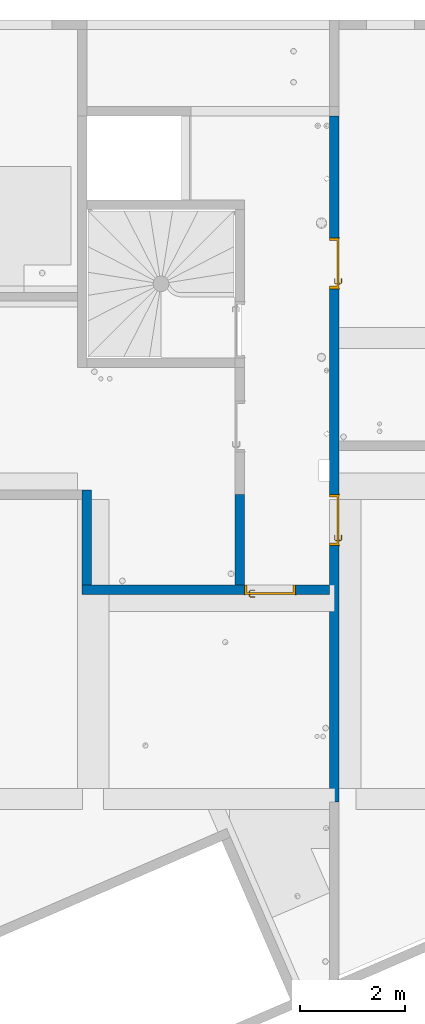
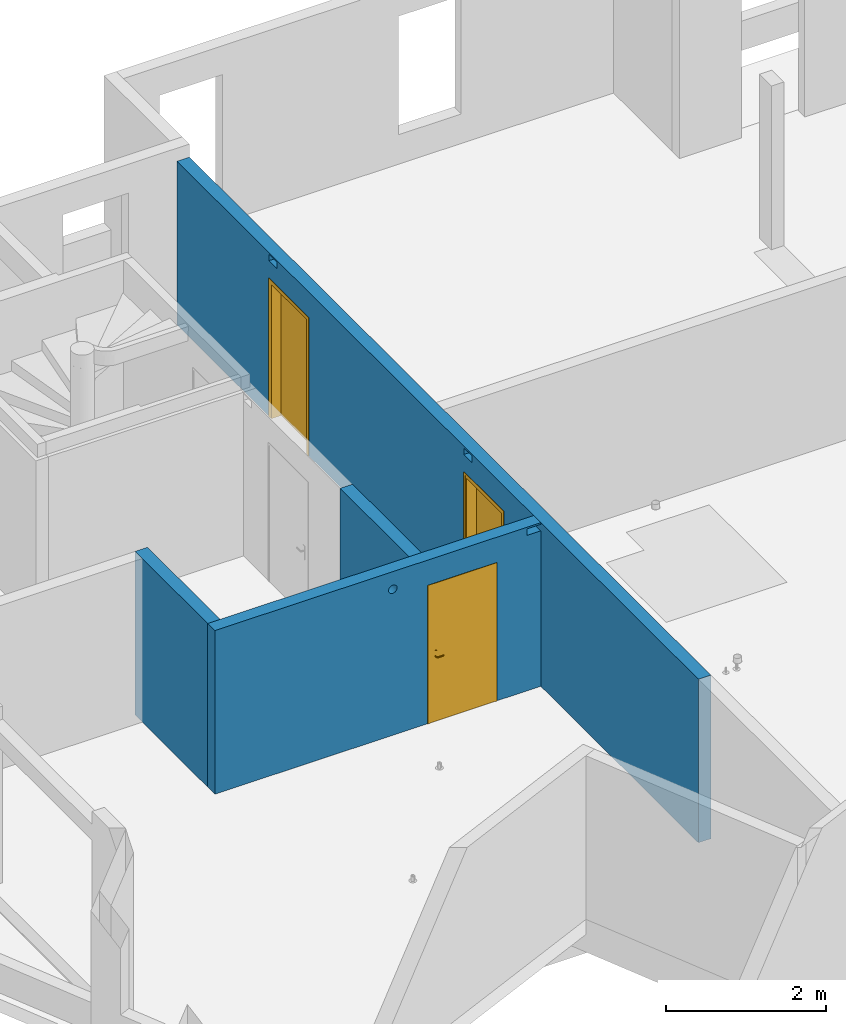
# One storey, part 5 of 34: 4 walls, 3 doors, 7 openings.
"""IFC2X3 building model written with IfcOpenShell, lengths in centimetres."""

import ifcopenshell
import ifcopenshell.guid

model = None  # the IFC model being written
_history = None  # IfcOwnerHistory: only IFC2X3 demands one
_inside = {}  # id of a spatial element -> (the spatial element, [elements in it])
_under = {}  # id of a project, library or spatial element -> (it, [spatial elements below it])
_declared = {}  # id of a project -> (the project, [libraries it declares])
_typed = {}  # id of a type object -> (the type object, [elements of that type])
_made_of = {}  # id of a material, layer set ... -> (it, [elements and type objects made of it])


def new_model(schema):
    """Start an empty IFC model of exactly this schema.

    Asked for "IFC4X3", IfcOpenShell would pick the latest addendum, in which some entities
    have other attributes; the version numbers below select the first issue.
    IFC2X3 requires an IfcOwnerHistory on every rooted entity: one is made here for all.
    """
    global model, _history
    if schema == "IFC4X3":
        model = ifcopenshell.file(schema_version=(4, 3, 0, 0))
    else:
        model = ifcopenshell.file(schema=schema)
    _inside.clear()
    _under.clear()
    _declared.clear()
    _typed.clear()
    _made_of.clear()
    _history = None
    if model.schema == "IFC2X3":
        org = make("IfcOrganization", Name="unknown")
        user = make(
            "IfcPersonAndOrganization",
            ThePerson=make("IfcPerson", FamilyName="unknown"),
            TheOrganization=org,
        )
        app = make(
            "IfcApplication",
            ApplicationDeveloper=org,
            Version="unknown",
            ApplicationFullName="unknown",
            ApplicationIdentifier="unknown",
        )
        _history = make(
            "IfcOwnerHistory",
            OwningUser=user,
            OwningApplication=app,
            ChangeAction="ADDED",
            CreationDate=0,
        )
    return model


def make(cls, **values):
    """One entity of the class cls with the attributes given. An attribute that is None is left unset."""
    return model.create_entity(
        cls, **{name: value for name, value in values.items() if value is not None}
    )


def entity(cls, *values):
    """Any entity or typed value of the class cls, its attributes in the order of the schema. None: left unset."""
    e = model.create_entity(cls)
    for i, value in enumerate(values):
        if value is not None:
            e[i] = value
    return e


def rooted(cls, **values):
    """An entity with a GlobalId (a new one), such as an element, a storey or a relation."""
    return make(cls, GlobalId=ifcopenshell.guid.new(), OwnerHistory=_history, **values)


def si_unit(unit_type, name, prefix=None):
    """IfcSIUnit, for example si_unit("LENGTHUNIT", "METRE", prefix="MILLI")."""
    return make("IfcSIUnit", UnitType=unit_type, Prefix=prefix, Name=name)


def converted_unit(unit_type, name, factor, base, dimensions=None, offset=None):
    """IfcConversionBasedUnit, such as the inch: factor (a typed value) times the base unit."""
    return make(
        "IfcConversionBasedUnit"
        if offset is None
        else "IfcConversionBasedUnitWithOffset",
        ConversionOffset=offset,
        Dimensions=None
        if dimensions is None
        else entity("IfcDimensionalExponents", *dimensions),
        UnitType=unit_type,
        Name=name,
        ConversionFactor=make(
            "IfcMeasureWithUnit", ValueComponent=factor, UnitComponent=base
        ),
    )


def derived_unit(unit_type, elements):
    """IfcDerivedUnit: a product of units, each with its exponent."""
    return make(
        "IfcDerivedUnit",
        Elements=[
            make("IfcDerivedUnitElement", Unit=unit, Exponent=power)
            for unit, power in elements
        ],
        UnitType=unit_type,
    )


def assignment(units):
    """IfcUnitAssignment: the units of a project."""
    return None if units is None else make("IfcUnitAssignment", Units=units)


def point(xyz):
    """IfcCartesianPoint."""
    return None if xyz is None else make("IfcCartesianPoint", Coordinates=xyz)


def direction(xyz):
    """IfcDirection."""
    return None if xyz is None else make("IfcDirection", DirectionRatios=xyz)


def frame(location, z_axis=None, x_axis=None):
    """IfcAxis2Placement3D, a coordinate frame: its origin and axes. An axis left out is left unset."""
    return make(
        "IfcAxis2Placement3D",
        Location=point(location),
        Axis=direction(z_axis),
        RefDirection=direction(x_axis),
    )


def frame_2d(location, x_axis=None):
    """IfcAxis2Placement2D, a coordinate frame in the plane: its origin and x axis."""
    return make(
        "IfcAxis2Placement2D", Location=point(location), RefDirection=direction(x_axis)
    )


def origin():
    """The frame at (0, 0, 0) with its axes left unset."""
    return frame((0.0, 0.0, 0.0))


def origin_2d_with_axis():
    """The frame at (0, 0) in the plane with the x axis (1, 0) written out."""
    return frame_2d((0.0, 0.0), x_axis=(1.0, 0.0))


def place(relative_to, where):
    """IfcLocalPlacement: puts the frame where relative to a parent placement (None: the world)."""
    return make(
        "IfcLocalPlacement", PlacementRelTo=relative_to, RelativePlacement=where
    )


def context(
    kind, dimensions, precision=None, world=None, true_north=None, identifier=None
):
    """IfcGeometricRepresentationContext, for example the 3D "Model" context."""
    return make(
        "IfcGeometricRepresentationContext",
        ContextIdentifier=identifier,
        ContextType=kind,
        CoordinateSpaceDimension=dimensions,
        Precision=precision,
        WorldCoordinateSystem=world,
        TrueNorth=true_north,
    )


def subcontext(parent, identifier, kind, view, scale=None):
    """IfcGeometricRepresentationSubContext, for example "Body" below "Model"."""
    return make(
        "IfcGeometricRepresentationSubContext",
        ContextIdentifier=identifier,
        ContextType=kind,
        ParentContext=parent,
        TargetScale=scale,
        TargetView=view,
    )


def project(units=None, contexts=None):
    """IfcProject with its units and contexts."""
    return rooted(
        "IfcProject",
        Name="project",
        RepresentationContexts=contexts,
        UnitsInContext=assignment(units),
    )


def spatial(cls, under=None, at=None, **own):
    """A site, building, storey or space (cls), placed at a placement, below another one or the project."""
    s = rooted(cls, ObjectPlacement=at, **own)
    if under is not None:
        _under.setdefault(under.id(), (under, []))[1].append(s)
    return s


def profile(cls, at=None, kind="AREA", **sizes):
    """A parametric profile (cls). Its sizes go by their IFC names, for example OverallWidth=200.0."""
    return make(cls, ProfileType=kind, Position=at, **sizes)


def rectangle(**sizes):
    """IfcRectangleProfileDef."""
    return profile("IfcRectangleProfileDef", **sizes)


def circle(**sizes):
    """IfcCircleProfileDef."""
    return profile("IfcCircleProfileDef", **sizes)


def extrude(swept, where, along, depth):
    """IfcExtrudedAreaSolid: the profile swept, set in the frame where, extruded along a direction by depth."""
    return make(
        "IfcExtrudedAreaSolid",
        SweptArea=swept,
        Position=where,
        ExtrudedDirection=direction(along),
        Depth=depth,
    )


def faces_of(points, faces, orient=None, outer=None):
    """IfcFace entities. A face is a list of loops; a loop is a list of indices into points, from 0.

    orient and outer hold one flag for each loop. By default every Orientation is true, the
    first loop of a face is its IfcFaceOuterBound and the others are IfcFaceBound.
    """
    made = []
    for i, loops in enumerate(faces):
        bounds = []
        for j, loop in enumerate(loops):
            is_outer = j == 0 if outer is None else outer[i][j]
            bounds.append(
                make(
                    "IfcFaceOuterBound" if is_outer else "IfcFaceBound",
                    Bound=make("IfcPolyLoop", Polygon=[points[k] for k in loop]),
                    Orientation=True if orient is None else orient[i][j],
                )
            )
        made.append(make("IfcFace", Bounds=bounds))
    return made


def faceted_brep(points, faces, orient=None, outer=None, voids=None):
    """IfcFacetedBrep: a solid bounded by flat faces; with voids (closed shells), ...WithVoids."""
    shared = [point(p) for p in points]
    hull = make("IfcClosedShell", CfsFaces=faces_of(shared, faces, orient, outer))
    if voids is None:
        return make("IfcFacetedBrep", Outer=hull)
    return make(
        "IfcFacetedBrepWithVoids",
        Outer=hull,
        Voids=[
            make(cls, CfsFaces=faces_of(shared, fs, o, b)) for cls, fs, o, b in voids
        ],
    )


def shape(context_of_items, identifier, shape_type, items):
    """IfcShapeRepresentation: the items that make up one representation, for example the "Body"."""
    return make(
        "IfcShapeRepresentation",
        ContextOfItems=context_of_items,
        RepresentationIdentifier=identifier,
        RepresentationType=shape_type,
        Items=items,
    )


def source(mapping_origin, context_of_items, identifier, shape_type, items):
    """IfcRepresentationMap: a shape defined once, which mapped items show again and again."""
    return make(
        "IfcRepresentationMap",
        MappingOrigin=mapping_origin,
        MappedRepresentation=shape(context_of_items, identifier, shape_type, items),
    )


def transform(
    local_origin,
    x_axis=None,
    y_axis=None,
    z_axis=None,
    scale=None,
    scale2=None,
    scale3=None,
    uniform=True,
):
    """IfcCartesianTransformationOperator3D, or its non-uniform kind. x_axis, y_axis, z_axis: its Axis1, 2, 3."""
    if uniform:
        return make(
            "IfcCartesianTransformationOperator3D",
            Axis1=direction(x_axis),
            Axis2=direction(y_axis),
            LocalOrigin=point(local_origin),
            Scale=scale,
            Axis3=direction(z_axis),
        )
    return make(
        "IfcCartesianTransformationOperator3DnonUniform",
        Axis1=direction(x_axis),
        Axis2=direction(y_axis),
        LocalOrigin=point(local_origin),
        Scale=scale,
        Axis3=direction(z_axis),
        Scale2=scale2,
        Scale3=scale3,
    )


def mapped(mapping_source, mapping_target):
    """IfcMappedItem: shows the shape of a source again, moved by a transform."""
    return make(
        "IfcMappedItem", MappingSource=mapping_source, MappingTarget=mapping_target
    )


def material(Name=None, Category=None):
    """IfcMaterial."""
    return make("IfcMaterial", Name=Name, Category=Category)


def material_list(materials):
    """IfcMaterialList."""
    return make("IfcMaterialList", Materials=materials)


def layer(
    of_material, thickness, ventilated=None, Name=None, Category=None, Priority=None
):
    """IfcMaterialLayer: one layer of a wall or slab, of a material (None: an air gap)."""
    return make(
        "IfcMaterialLayer",
        Material=of_material,
        LayerThickness=thickness,
        IsVentilated=ventilated,
        Name=Name,
        Category=Category,
        Priority=Priority,
    )


def layer_set(layers, Name=None):
    """IfcMaterialLayerSet."""
    return make("IfcMaterialLayerSet", MaterialLayers=layers, LayerSetName=Name)


def layer_usage(for_layer_set, set_direction, sense, offset, extent=None):
    """IfcMaterialLayerSetUsage: how a layer set lies in its element."""
    return make(
        "IfcMaterialLayerSetUsage",
        ForLayerSet=for_layer_set,
        LayerSetDirection=set_direction,
        DirectionSense=sense,
        OffsetFromReferenceLine=offset,
        ReferenceExtent=extent,
    )


def made_of(thing, what):
    """Note that an element or type object is made of a material, layer set ...; save() writes the relation."""
    if what is not None:
        _made_of.setdefault(what.id(), (what, []))[1].append(thing)
    return thing


def type_object(cls, material=None, **own):
    """A type object (cls), such as IfcWallType, which elements share."""
    return made_of(rooted(cls, **own), material)


def type_shapes(of_type, sources):
    """Give a type object the sources (RepresentationMaps) that its elements show as mapped items."""
    of_type.RepresentationMaps = sources


def element(
    cls,
    number,
    at=None,
    inside=None,
    cuts=None,
    type_object=None,
    material=None,
    context=None,
    identifier="Body",
    shape_type=None,
    held_by="IfcProductDefinitionShape",
    body=None,
    shapes=None,
    **own,
):
    """One element of the class cls, such as IfcWall. Its Tag is "e" and its number.

    at: its placement. inside: the storey or other place that contains it. cuts: it is an
    opening in that element (IfcRelVoidsElement). A single representation is given by context,
    identifier, shape_type and body (its items); several are given by shapes. held_by: the class
    of the entity that holds the representations. save() writes the other relations.
    """
    e = rooted(cls, Tag="e%d" % number, ObjectPlacement=at, **own)
    if body is not None:
        shapes = [shape(context, identifier, shape_type, body)]
    if shapes is not None:
        e.Representation = make(held_by, Representations=shapes)
    if inside is not None:
        _inside.setdefault(inside.id(), (inside, []))[1].append(e)
    if cuts is not None:
        rooted(
            "IfcRelVoidsElement", RelatingBuildingElement=cuts, RelatedOpeningElement=e
        )
    if type_object is not None:
        _typed.setdefault(type_object.id(), (type_object, []))[1].append(e)
    return made_of(e, material)


def fill(opening, filler):
    """IfcRelFillsElement: the door or window that sits in an opening."""
    return rooted(
        "IfcRelFillsElement",
        RelatingOpeningElement=opening,
        RelatedBuildingElement=filler,
    )


def aggregate(whole, parts):
    """IfcRelAggregates: a whole, such as a stair, and the parts it consists of."""
    return rooted("IfcRelAggregates", RelatingObject=whole, RelatedObjects=parts)


def save(model, path):
    """Write the relations noted so far, then the file.

    IfcRelAggregates (storeys below a building ...), IfcRelContainedInSpatialStructure (elements
    in a storey), IfcRelDefinesByType, IfcRelAssociatesMaterial and IfcRelDeclares: one each for
    every whole, place, type object, material and project.
    """
    for whole, parts in _under.values():
        aggregate(whole, parts)
    for where, things in _inside.values():
        rooted(
            "IfcRelContainedInSpatialStructure",
            RelatedElements=things,
            RelatingStructure=where,
        )
    for kind, things in _typed.values():
        rooted("IfcRelDefinesByType", RelatedObjects=things, RelatingType=kind)
    for what, things in _made_of.values():
        rooted("IfcRelAssociatesMaterial", RelatedObjects=things, RelatingMaterial=what)
    for by, libraries in _declared.values():
        rooted("IfcRelDeclares", RelatingContext=by, RelatedDefinitions=libraries)
    model.write(path)


model = new_model("IFC2X3")

# Units and contexts
model_context = context("Model", 3, precision=0.001, world=origin(), true_north=direction((6.12303176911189e-17, 1.0)))
body_context = subcontext(model_context, "Body", "Model", "MODEL_VIEW")
ifc_project = project(units=[si_unit("LENGTHUNIT", "METRE", prefix="CENTI"), si_unit("AREAUNIT", "SQUARE_METRE"), si_unit("VOLUMEUNIT", "CUBIC_METRE"), converted_unit("PLANEANGLEUNIT", "DEGREE", entity("IfcRatioMeasure", 0.0174532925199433), si_unit("PLANEANGLEUNIT", "RADIAN"), dimensions=[0, 0, 0, 0, 0, 0, 0]), si_unit("MASSUNIT", "GRAM", prefix="KILO"), derived_unit("MASSDENSITYUNIT", [(si_unit("MASSUNIT", "GRAM", prefix="KILO"), 1), (si_unit("LENGTHUNIT", "METRE"), -3)]), si_unit("TIMEUNIT", "SECOND"), si_unit("FREQUENCYUNIT", "HERTZ"), si_unit("THERMODYNAMICTEMPERATUREUNIT", "DEGREE_CELSIUS"), derived_unit("THERMALTRANSMITTANCEUNIT", [(si_unit("MASSUNIT", "GRAM", prefix="KILO"), 1), (si_unit("THERMODYNAMICTEMPERATUREUNIT", "KELVIN"), -1), (si_unit("TIMEUNIT", "SECOND"), -3)]), derived_unit("VOLUMETRICFLOWRATEUNIT", [(si_unit("LENGTHUNIT", "METRE"), 3), (si_unit("TIMEUNIT", "SECOND"), -1)]), si_unit("ELECTRICCURRENTUNIT", "AMPERE"), si_unit("ELECTRICVOLTAGEUNIT", "VOLT"), si_unit("POWERUNIT", "WATT"), si_unit("FORCEUNIT", "NEWTON"), si_unit("ILLUMINANCEUNIT", "LUX"), si_unit("LUMINOUSFLUXUNIT", "LUMEN"), si_unit("LUMINOUSINTENSITYUNIT", "CANDELA"), derived_unit("USERDEFINED", [(si_unit("MASSUNIT", "GRAM", prefix="KILO"), -1), (si_unit("LENGTHUNIT", "METRE"), -2), (si_unit("TIMEUNIT", "SECOND"), 3), (si_unit("LUMINOUSFLUXUNIT", "LUMEN"), 1)]), derived_unit("LINEARVELOCITYUNIT", [(si_unit("LENGTHUNIT", "METRE"), 1), (si_unit("TIMEUNIT", "SECOND"), -1)]), si_unit("PRESSUREUNIT", "PASCAL"), derived_unit("USERDEFINED", [(si_unit("LENGTHUNIT", "METRE"), -2), (si_unit("MASSUNIT", "GRAM", prefix="KILO"), 1), (si_unit("TIMEUNIT", "SECOND"), -2)])], contexts=[model_context])

# Site, building, storey
site_placement = place(None, origin())
site = spatial("IfcSite", under=ifc_project, at=site_placement, Name="Default", CompositionType="ELEMENT")
building_placement = place(site_placement, origin())
building = spatial("IfcBuilding", under=site, at=building_placement, Name="CAGE 03", CompositionType="ELEMENT")
storey_placement = place(building_placement, frame((0.0, 0.0, 340.0)))
storey = spatial("IfcBuildingStorey", under=building, at=storey_placement, Name="R+1", CompositionType="ELEMENT", Elevation=340.0)

# Wall, openings, door
ifc_material_1 = material(Name="Béton, C25/30")
ifc_layer = layer(ifc_material_1, 18.0)
ifc_layer_set = layer_set([ifc_layer], Name="Mur de base:Voile BA 18")
ifc_layer_usage_1 = layer_usage(ifc_layer_set, "AXIS2", "NEGATIVE", 9.0)
wall_type = type_object("IfcWallType", Name="Mur de base:Voile BA 18", PredefinedType="STANDARD", material=ifc_layer_set)
wall_1_placement = place(storey_placement, frame((4134.36582014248, 4209.16066607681, 0.0), z_axis=(0.0, 0.0, 1.0), x_axis=(-1.0, 0.0, 0.0)))
wall_1 = element("IfcWallStandardCase", 1, at=wall_1_placement, inside=storey, type_object=wall_type, material=ifc_layer_usage_1, Name="Mur de base:Voile BA 18", ObjectType="Mur de base:Voile BA 18", context=body_context, shape_type="SweptSolid", body=[
    extrude(rectangle(XDim=470.999999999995, YDim=17.9999999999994, at=frame_2d((235.499999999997, 0.0), x_axis=(-1.0, 0.0))), origin(), (0.0, 0.0, 1.0), 250.0),
])
opening_1_placement = place(wall_1_placement, origin())
element("IfcOpeningElement", 2, at=opening_1_placement, cuts=wall_1, Name="Mur de base:Voile BA 18", ObjectType="Opening", context=body_context, shape_type="SweptSolid", body=[
    extrude(rectangle(XDim=10.0, YDim=19.9999999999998, at=frame_2d((4.33431068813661e-13, 5.41788836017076e-14), x_axis=(0.0, 1.0))), frame((10.0, -9.0, 242.5), z_axis=(0.0, 1.0, 0.0), x_axis=(1.0, 0.0, 0.0)), (0.0, 0.0, 1.0), 17.9999999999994),
])
opening_2_placement = place(wall_1_placement, origin())
element("IfcOpeningElement", 3, at=opening_2_placement, cuts=wall_1, Name="Mur de base:Voile BA 18", ObjectType="Opening", context=body_context, shape_type="SweptSolid", body=[
    extrude(circle(Radius=6.25, at=origin_2d_with_axis()), frame((213.79796018, -9.0, 223.19), z_axis=(0.0, 1.0, 0.0), x_axis=(1.0, 0.0, 0.0)), (0.0, 0.0, 1.0), 17.9999999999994),
])
opening_3_placement = place(wall_1_placement, frame((65.0, -9.0, 0.0)))
opening_3 = element("IfcOpeningElement", 4, at=opening_3_placement, cuts=wall_1, Name="Int. Simple:HB93:1", ObjectType="Opening", context=body_context, shape_type="SweptSolid", body=[
    extrude(rectangle(XDim=210.000000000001, YDim=96.9999999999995, at=frame_2d((105.000000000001, 48.4999999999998), x_axis=(1.0, 0.0))), frame((0.0, 0.0, 0.0), z_axis=(0.0, 1.0, 0.0), x_axis=(0.0, 0.0, 1.0)), (0.0, 0.0, 1.0), 18.0),
])
ifc_material_2 = material(Name="Finition Peinture - Blanc satiné")
ifc_material_3 = material(Name="Bois - Panneau de porte")
ifc_material_4 = material(Name="Bois - Cadre de porte")
ifc_material_list_1 = material_list([ifc_material_2, ifc_material_3, ifc_material_4])
ifc_material_list_2 = material_list([ifc_material_2, ifc_material_3, ifc_material_4])
door_style = type_object("IfcDoorStyle", Name="HB93", ConstructionType="NOTDEFINED", OperationType="SINGLE_SWING_LEFT", ParameterTakesPrecedence=False, Sizeable=False, material=ifc_material_list_2)
shared_shape = source(origin(), body_context, "Body", "Brep", [
    faceted_brep([(10.5352761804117, -0.500000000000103, 86.6003983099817), (11.5000000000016, -0.500000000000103, 87.0), (11.5000000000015, -0.500000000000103, 108.0), (10.5352761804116, -0.500000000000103, 108.399601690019), (9.50000000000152, -0.500000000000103, 108.535898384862), (8.46472381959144, -0.500000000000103, 108.399601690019), (7.50000000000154, -0.500000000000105, 108.0), (7.50000000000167, -0.500000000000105, 87.0), (8.46472381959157, -0.500000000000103, 86.6003983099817), (9.50000000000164, -0.500000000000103, 86.464101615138), (10.5352761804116, 0.0, 108.399601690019), (11.5000000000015, 0.0, 108.0), (11.5000000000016, 0.0, 87.0), (10.5352761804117, 0.0, 86.6003983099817), (9.50000000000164, 0.0, 86.464101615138), (8.46472381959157, 0.0, 86.6003983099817), (7.50000000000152, 0.0, 87.0), (7.50000000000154, 0.0, 108.0), (8.46472381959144, 0.0, 108.399601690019), (9.50000000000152, 0.0, 108.535898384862)], [[[0, 1, 2, 3, 4, 5, 6, 7, 8, 9]], [[10, 11, 12, 13, 14, 15, 16, 17, 18, 19]], [[16, 15, 8, 7]], [[8, 15, 14, 9]], [[14, 13, 0, 9]], [[13, 12, 1, 0]], [[2, 1, 12, 11]], [[11, 10, 3, 2]], [[3, 10, 19, 4]], [[19, 18, 5, 4]], [[18, 17, 6, 5]], [[7, 6, 17, 16]]]),
    faceted_brep([(10.5352761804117, 4.0, 86.6003983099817), (11.5000000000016, 4.0, 87.0), (11.5000000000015, 4.0, 108.0), (10.5352761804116, 4.0, 108.399601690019), (9.50000000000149, 4.0, 108.535898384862), (8.46472381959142, 4.0, 108.399601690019), (7.50000000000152, 4.0, 108.0), (7.50000000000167, 4.0, 87.0), (8.46472381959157, 4.0, 86.6003983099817), (9.50000000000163, 4.0, 86.464101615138), (10.5352761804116, 4.49999999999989, 108.399601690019), (11.5000000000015, 4.4999999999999, 108.0), (11.5000000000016, 4.4999999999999, 87.0), (10.5352761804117, 4.49999999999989, 86.6003983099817), (9.50000000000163, 4.49999999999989, 86.464101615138), (8.46472381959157, 4.49999999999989, 86.6003983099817), (7.50000000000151, 4.49999999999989, 87.0), (7.50000000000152, 4.49999999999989, 108.0), (8.46472381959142, 4.49999999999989, 108.399601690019), (9.50000000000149, 4.49999999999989, 108.535898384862)], [[[0, 1, 2, 3, 4, 5, 6, 7, 8, 9]], [[10, 11, 12, 13, 14, 15, 16, 17, 18, 19]], [[11, 10, 3, 2]], [[3, 10, 19, 4]], [[19, 18, 5, 4]], [[18, 17, 6, 5]], [[7, 6, 17, 16]], [[16, 15, 8, 7]], [[8, 15, 14, 9]], [[14, 13, 0, 9]], [[13, 12, 1, 0]], [[2, 1, 12, 11]]]),
    faceted_brep([(9.29747013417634, -0.500000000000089, 100.778044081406), (9.70252986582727, -0.500000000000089, 100.778044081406), (10.1000000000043, -0.500000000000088, 100.699999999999), (10.1000000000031, -0.500000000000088, 99.3000000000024), (9.70252986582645, -0.500000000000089, 99.2219559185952), (9.29747013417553, -0.500000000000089, 99.221955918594), (8.89999999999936, -0.500000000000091, 99.2999999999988), (8.89999999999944, -0.500000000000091, 100.7), (8.89999999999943, -3.26509507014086, 100.7), (9.29747013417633, -3.10045754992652, 100.778044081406), (10.9023585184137, -4.70534593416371, 100.778044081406), (11.0701397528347, -4.30028620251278, 100.778044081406), (9.70252986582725, -2.93267631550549, 100.778044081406), (10.1000000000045, -2.76803879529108, 100.7), (10.1000000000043, -2.76803879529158, 99.3000000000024), (9.70252986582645, -2.93267631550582, 99.2219559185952), (11.0701397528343, -4.30028620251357, 99.2219559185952), (10.9023585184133, -4.70534593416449, 99.221955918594), (9.29747013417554, -3.10045754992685, 99.221955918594), (8.89999999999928, -3.26509507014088, 99.2999999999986), (10.7377209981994, -5.1028160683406, 100.7), (11.2347772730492, -3.90281606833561, 100.7), (11.2347772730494, -3.90281606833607, 99.3000000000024), (10.7377209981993, -5.10281606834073, 99.2999999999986), (19.5018640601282, -5.1028160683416, 99.2999999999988), (19.5018640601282, -4.70534593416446, 99.221955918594), (19.5018640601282, -4.30028620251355, 99.2219559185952), (19.5018640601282, -3.90281606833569, 99.3000000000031), (19.5018640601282, -3.90281606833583, 100.7), (19.5018640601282, -4.30028620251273, 100.778044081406), (19.5018640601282, -4.70534593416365, 100.778044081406), (19.5018640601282, -5.10281606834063, 100.699999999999), (14.7307697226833, -5.10281606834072, 100.7), (15.28600190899, -4.5028160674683, 100.78786867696), (15.3683206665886, -3.9028160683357, 100.7), (15.3683206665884, -3.90281606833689, 99.3000000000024), (15.2860018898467, -4.50281607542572, 99.2121313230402), (14.7307700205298, -5.10281606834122, 99.2999999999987)], [[[0, 1, 2, 3, 4, 5, 6, 7]], [[8, 9, 0, 7]], [[9, 10, 11, 12, 1, 0]], [[12, 13, 2, 1]], [[3, 2, 13, 14]], [[14, 15, 4, 3]], [[15, 16, 17, 18, 5, 4]], [[18, 19, 6, 5]], [[7, 6, 19, 8]], [[20, 10, 9, 8]], [[11, 21, 13, 12]], [[14, 13, 21, 22]], [[22, 16, 15, 14]], [[17, 23, 19, 18]], [[8, 19, 23, 20]], [[24, 25, 26, 27, 28, 29, 30, 31]], [[32, 30, 33]], [[31, 30, 32]], [[10, 20, 32]], [[33, 34, 11]], [[21, 11, 34]], [[34, 29, 28]], [[30, 29, 33]], [[29, 34, 33]], [[10, 32, 33]], [[10, 33, 11]], [[22, 21, 34, 28, 27, 35]], [[35, 26, 36]], [[37, 36, 25]], [[22, 35, 16]], [[35, 27, 26]], [[24, 37, 25]], [[23, 17, 37]], [[37, 17, 36]], [[17, 16, 36]], [[16, 35, 36]], [[25, 36, 26]], [[20, 23, 37, 24, 31, 32]]]),
    faceted_brep([(9.29747013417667, 4.49999999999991, 100.778044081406), (8.89999999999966, 4.49999999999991, 100.7), (8.89999999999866, 4.49999999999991, 99.2999999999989), (9.2974701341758, 4.49999999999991, 99.221955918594), (9.70252986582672, 4.49999999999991, 99.2219559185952), (10.1000000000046, 4.49999999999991, 99.3000000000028), (10.1000000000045, 4.49999999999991, 100.7), (9.70252986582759, 4.49999999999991, 100.778044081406), (10.1000000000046, 6.7485204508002, 99.3000000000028), (10.1000000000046, 6.74852045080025, 100.7), (9.70252986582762, 6.91315797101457, 100.778044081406), (11.0838906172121, 8.29451872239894, 100.778044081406), (10.9161093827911, 8.69957845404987, 100.778044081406), (9.29747013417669, 7.0809392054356, 100.778044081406), (8.89999999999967, 7.24557672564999, 100.7), (8.89999999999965, 7.24557672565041, 99.2999999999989), (9.29747013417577, 7.08093920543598, 99.221955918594), (10.9161093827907, 8.69957845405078, 99.221955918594), (11.0838906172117, 8.29451872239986, 99.2219559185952), (9.7025298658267, 6.91315797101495, 99.2219559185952), (11.2485281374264, 7.89704858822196, 99.3000000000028), (11.2485281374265, 7.89704858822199, 100.7), (10.7514718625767, 9.0970485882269, 100.7), (10.751471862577, 9.0970485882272, 99.2999999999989), (19.504578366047, 7.89704858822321, 99.3000000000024), (19.504578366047, 8.29451872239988, 99.2219559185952), (19.504578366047, 8.6995784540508, 99.221955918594), (19.504578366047, 9.09704858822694, 99.2999999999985), (19.504578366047, 9.09704858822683, 100.7), (19.504578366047, 8.69957845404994, 100.778044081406), (19.504578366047, 8.29451872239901, 100.778044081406), (19.504578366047, 7.89704858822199, 100.7), (15.3765520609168, 7.89704858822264, 99.3000000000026), (15.3765532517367, 7.89704858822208, 100.7), (15.294234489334, 8.49704858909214, 100.78786867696), (14.7445205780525, 9.09704858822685, 100.7), (14.7445204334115, 9.09704858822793, 99.2999999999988), (15.2942345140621, 8.49704858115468, 99.2121313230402)], [[[0, 1, 2, 3, 4, 5, 6, 7]], [[6, 5, 8, 9]], [[9, 10, 7, 6]], [[10, 11, 12, 13, 0, 7]], [[13, 14, 1, 0]], [[2, 1, 14, 15]], [[15, 16, 3, 2]], [[16, 17, 18, 19, 4, 3]], [[19, 8, 5, 4]], [[9, 8, 20, 21]], [[21, 11, 10, 9]], [[12, 22, 14, 13]], [[15, 14, 22, 23]], [[23, 17, 16, 15]], [[18, 20, 8, 19]], [[24, 25, 26, 27, 28, 29, 30, 31]], [[21, 20, 32, 24, 31, 33]], [[33, 30, 34]], [[35, 34, 29]], [[21, 33, 11]], [[33, 31, 30]], [[28, 35, 29]], [[22, 12, 35]], [[35, 12, 34]], [[12, 11, 34]], [[11, 33, 34]], [[29, 34, 30]], [[22, 35, 28, 27, 36, 23]], [[36, 26, 37]], [[27, 26, 36]], [[17, 23, 36]], [[37, 32, 18]], [[20, 18, 32]], [[32, 25, 24]], [[26, 25, 37]], [[25, 32, 37]], [[17, 36, 37]], [[17, 37, 18]]]),
    faceted_brep([(3.50000000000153, 4.0, 206.5), (93.5000000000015, 4.0, 206.5), (93.5000000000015, 4.0, 0.0), (3.50000000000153, 4.0, 0.0), (3.50000000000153, 0.0, 206.5), (3.50000000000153, 0.0, 0.0), (93.5000000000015, 0.0, 0.0), (93.5000000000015, 0.0, 206.5)], [[[0, 1, 2, 3]], [[4, 5, 6, 7]], [[1, 0, 4, 7]], [[2, 1, 7, 6]], [[3, 2, 6, 5]], [[0, 3, 5, 4]]]),
    faceted_brep([(0.0, 0.0, 0.0), (0.0, 18.0, 0.0), (5.0, 18.0, 0.0), (5.0, 4.0, 0.0), (3.50000000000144, 4.0, 0.0), (3.50000000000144, 0.0, 0.0), (0.0, 0.0, 210.0), (0.0, 18.0, 210.0), (97.0, 18.0, 210.0), (97.0, 18.0, 0.0), (92.0, 18.0, 0.0), (92.0, 18.0, 205.0), (5.0, 18.0, 205.0), (5.0, 4.0, 205.0), (92.0, 4.0, 205.0), (92.0, 4.0, 0.0), (93.4999999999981, 4.0, 0.0), (93.4999999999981, 4.0, 206.5), (3.50000000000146, 4.0, 206.5), (3.50000000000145, 0.0, 206.5), (93.4999999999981, 0.0, 206.5), (93.4999999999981, 0.0, 0.0), (97.0, 0.0, 0.0), (97.0, 0.0, 210.0)], [[[0, 1, 2, 3, 4, 5]], [[1, 0, 6, 7]], [[2, 1, 7, 8, 9, 10, 11, 12]], [[3, 2, 12, 13]], [[4, 3, 13, 14, 15, 16, 17, 18]], [[5, 4, 18, 19]], [[0, 5, 19, 20, 21, 22, 23, 6]], [[8, 23, 22, 9]], [[22, 21, 16, 15, 10, 9]], [[14, 11, 10, 15]], [[20, 17, 16, 21]], [[7, 6, 23, 8]], [[13, 12, 11, 14]], [[19, 18, 17, 20]]]),
    faceted_brep([(1.5, 18.0, 0.0), (-1.49999999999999, 18.0, 0.0), (-1.49999999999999, 18.5000000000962, 0.0), (1.5, 18.5000000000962, 0.0), (1.5, 18.0, 208.500000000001), (95.4999999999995, 18.0, 208.500000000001), (95.4999999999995, 18.0, 0.0), (98.4999999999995, 18.0, 0.0), (98.4999999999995, 18.0, 211.500000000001), (-1.49999999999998, 18.0, 211.500000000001), (-1.49999999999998, 18.5000000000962, 211.500000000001), (98.4999999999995, 18.5000000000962, 211.500000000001), (98.4999999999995, 18.5000000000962, 0.0), (95.4999999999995, 18.5000000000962, 0.0), (95.4999999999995, 18.5000000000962, 208.500000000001), (1.50000000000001, 18.5000000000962, 208.500000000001)], [[[0, 1, 2, 3]], [[1, 0, 4, 5, 6, 7, 8, 9]], [[2, 1, 9, 10]], [[3, 2, 10, 11, 12, 13, 14, 15]], [[0, 3, 15, 4]], [[6, 13, 12, 7]], [[5, 14, 13, 6]], [[11, 8, 7, 12]], [[10, 9, 8, 11]], [[4, 15, 14, 5]]]),
    faceted_brep([(-1.49999999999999, -0.5, 0.0), (1.5, -0.5, 0.0), (1.5, -0.5, 208.500000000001), (95.4999999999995, -0.5, 208.500000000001), (95.4999999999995, -0.5, 0.0), (98.4999999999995, -0.5, 0.0), (98.4999999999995, -0.5, 211.500000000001), (-1.49999999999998, -0.5, 211.500000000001), (-1.49999999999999, 0.0, 0.0), (-1.49999999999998, 0.0, 211.500000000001), (1.5, 0.0, 0.0), (98.4999999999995, 0.0, 211.500000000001), (98.4999999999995, 0.0, 0.0), (95.4999999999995, 0.0, 0.0), (95.4999999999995, 0.0, 208.500000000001), (1.50000000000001, 0.0, 208.500000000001)], [[[0, 1, 2, 3, 4, 5, 6, 7]], [[8, 0, 7, 9]], [[10, 8, 9, 11, 12, 13, 14, 15]], [[1, 10, 15, 2]], [[3, 14, 13, 4]], [[11, 6, 5, 12]], [[9, 7, 6, 11]], [[2, 15, 14, 3]], [[4, 13, 12, 5]], [[1, 0, 8, 10]]]),
])
type_shapes(door_style, [shared_shape])
door_1_placement = place(opening_3_placement, frame((97.0, 18.0, 0.0), z_axis=(0.0, 0.0, 1.0), x_axis=(-1.0, 0.0, 0.0)))
door_1 = element("IfcDoor", 5, at=door_1_placement, inside=storey, type_object=door_style, material=ifc_material_list_1, Name="Int. Simple:HB93", ObjectType="HB93", OverallHeight=210.000000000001, OverallWidth=96.9999999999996, context=body_context, shape_type="MappedRepresentation", body=[
    mapped(shared_shape, transform((0.0, 0.0, 0.0), scale=1.0)),
])
fill(opening_3, door_1)

# Wall
ifc_layer_usage_2 = layer_usage(ifc_layer_set, "AXIS2", "NEGATIVE", 9.0)
wall_2_placement = place(storey_placement, frame((3672.36582014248, 4218.16066607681, 0.0), z_axis=(0.0, 0.0, 1.0), x_axis=(0.0, 1.0, 0.0)))
element("IfcWallStandardCase", 6, at=wall_2_placement, inside=storey, type_object=wall_type, material=ifc_layer_usage_2, Name="Mur de base:Voile BA 18", ObjectType="Mur de base:Voile BA 18", context=body_context, shape_type="SweptSolid", body=[
    extrude(rectangle(XDim=181.5, YDim=18.0000000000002, at=frame_2d((90.7500000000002, 6.75015598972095e-14), x_axis=(-1.0, 0.0))), origin(), (0.0, 0.0, 1.0), 250.0),
])

# Wall, openings, doors
ifc_layer_usage_3 = layer_usage(ifc_layer_set, "AXIS2", "POSITIVE", -9.0)
wall_3_placement = place(storey_placement, frame((4143.36582014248, 5110.66066607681, 0.0), z_axis=(0.0, 0.0, 1.0), x_axis=(0.0, -1.0, 0.0)))
wall_3 = element("IfcWallStandardCase", 7, at=wall_3_placement, inside=storey, type_object=wall_type, material=ifc_layer_usage_3, Name="Mur de base:Voile BA 18", ObjectType="Mur de base:Voile BA 18", context=body_context, shape_type="SweptSolid", body=[
    extrude(rectangle(XDim=1304.885805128, YDim=17.9999999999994, at=frame_2d((652.442902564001, -1.19904086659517e-13), x_axis=(-1.0, 0.0))), origin(), (0.0, 0.0, 1.0), 250.0),
])
opening_4_placement = place(wall_3_placement, origin())
element("IfcOpeningElement", 8, at=opening_4_placement, cuts=wall_3, Name="Mur de base:Voile BA 18", ObjectType="Opening", context=body_context, shape_type="SweptSolid", body=[
    extrude(rectangle(XDim=10.0, YDim=19.9999999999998, at=frame_2d((4.33431068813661e-13, 5.41788836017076e-14), x_axis=(0.0, 1.0))), frame((239.906128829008, -9.0, 242.5), z_axis=(0.0, 1.0, 0.0), x_axis=(1.0, 0.0, 0.0)), (0.0, 0.0, 1.0), 17.9999999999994),
])
opening_5_placement = place(wall_3_placement, origin())
element("IfcOpeningElement", 9, at=opening_5_placement, cuts=wall_3, Name="Mur de base:Voile BA 18", ObjectType="Opening", context=body_context, shape_type="SweptSolid", body=[
    extrude(rectangle(XDim=10.0, YDim=19.9999999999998, at=frame_2d((-4.33431068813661e-13, 5.41788836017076e-14), x_axis=(0.0, 1.0))), frame((728.030953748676, -9.0, 242.5), z_axis=(0.0, 1.0, 0.0), x_axis=(1.0, 0.0, 0.0)), (0.0, 0.0, 1.0), 17.9999999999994),
])
opening_6_placement = place(wall_3_placement, frame((720.0, -9.0, 0.0)))
opening_6 = element("IfcOpeningElement", 10, at=opening_6_placement, cuts=wall_3, Name="Int. Simple:HB93:1", ObjectType="Opening", context=body_context, shape_type="SweptSolid", body=[
    extrude(rectangle(XDim=210.000000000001, YDim=96.9999999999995, at=frame_2d((105.000000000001, 48.4999999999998), x_axis=(1.0, 0.0))), frame((0.0, 0.0, 0.0), z_axis=(0.0, 1.0, 0.0), x_axis=(0.0, 0.0, 1.0)), (0.0, 0.0, 1.0), 18.0),
])
opening_7_placement = place(wall_3_placement, frame((231.5, -9.0, 0.0)))
opening_7 = element("IfcOpeningElement", 11, at=opening_7_placement, cuts=wall_3, Name="Int. Simple:HB93:1", ObjectType="Opening", context=body_context, shape_type="SweptSolid", body=[
    extrude(rectangle(XDim=210.000000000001, YDim=96.9999999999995, at=frame_2d((105.000000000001, 48.4999999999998), x_axis=(1.0, 0.0))), frame((0.0, 0.0, 0.0), z_axis=(0.0, 1.0, 0.0), x_axis=(0.0, 0.0, 1.0)), (0.0, 0.0, 1.0), 18.0),
])
ifc_material_list_3 = material_list([ifc_material_2, ifc_material_3, ifc_material_4])
door_2_placement = place(opening_6_placement, frame((97.0, 18.0, 0.0), z_axis=(0.0, 0.0, 1.0), x_axis=(-1.0, 0.0, 0.0)))
door_2 = element("IfcDoor", 12, at=door_2_placement, inside=storey, type_object=door_style, material=ifc_material_list_3, Name="Int. Simple:HB93", ObjectType="HB93", OverallHeight=210.000000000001, OverallWidth=96.9999999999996, context=body_context, shape_type="MappedRepresentation", body=[
    mapped(shared_shape, transform((0.0, 0.0, 0.0), scale=1.0)),
])
fill(opening_6, door_2)
ifc_material_list_4 = material_list([ifc_material_2, ifc_material_3, ifc_material_4])
door_3_placement = place(opening_7_placement, frame((97.0, 18.0, 0.0), z_axis=(0.0, 0.0, 1.0), x_axis=(-1.0, 0.0, 0.0)))
door_3 = element("IfcDoor", 13, at=door_3_placement, inside=storey, type_object=door_style, material=ifc_material_list_4, Name="Int. Simple:HB93", ObjectType="HB93", OverallHeight=210.000000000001, OverallWidth=96.9999999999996, context=body_context, shape_type="MappedRepresentation", body=[
    mapped(shared_shape, transform((0.0, 0.0, 0.0), scale=1.0)),
])
fill(opening_7, door_3)

# Wall
ifc_layer_usage_4 = layer_usage(ifc_layer_set, "AXIS2", "NEGATIVE", 9.0)
wall_4_placement = place(storey_placement, frame((3963.36582014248, 4390.66066607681, 0.0), z_axis=(0.0, 0.0, 1.0), x_axis=(0.0, -1.0, 0.0)))
element("IfcWallStandardCase", 14, at=wall_4_placement, inside=storey, type_object=wall_type, material=ifc_layer_usage_4, Name="Mur de base:Voile BA 18", ObjectType="Mur de base:Voile BA 18", context=body_context, shape_type="SweptSolid", body=[
    extrude(rectangle(XDim=172.5, YDim=17.9999999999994, at=frame_2d((86.2499999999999, 1.37667655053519e-13), x_axis=(-1.0, 0.0))), origin(), (0.0, 0.0, 1.0), 250.0),
])

save(model, "model.ifc")
